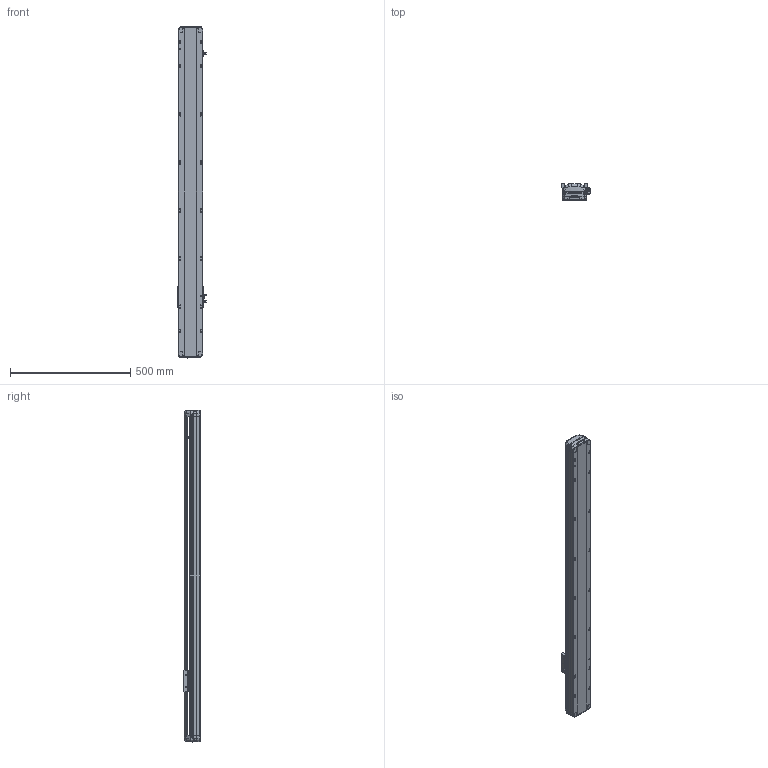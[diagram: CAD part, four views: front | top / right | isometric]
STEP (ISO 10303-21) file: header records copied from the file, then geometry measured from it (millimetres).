
FILE_DESCRIPTION (( 'STEP AP214' ), '1' );
FILE_NAME ('RTH10-XX-1000-B-M10-C4.STEP', '2025-10-25T05:18:09', ( 'Microsoft' ), ( 'Microsoft' ), 'SwSTEP 2.0', 'SolidWorks 2018', '' );
FILE_SCHEMA (( 'AUTOMOTIVE_DESIGN' ));
Length unit declared in the file: millimetre
Products named in the file (7): N_RTH12-GY-004-賑釱^RTH10-XX-XX-B-M10-C4; N_RTH12-B-007P-奻裔^RTH10-XX-XX-B-M10-C4; N_RTH12-B-011P-臏倰第菁釱^RTH10-XX-XX-B-M10-C4; RTH10-XX-1000-B-M10-C4; N_OMRON EE-SX672 传感器^RTH10-XX-XX-B-M10-C4; N_RTH12-GY-001P^RTH10-XX-XX-B-M10-C4; N_RTH13-L-012覜茼え俋离^RTH10-XX-XX-B-M10-C4
Assembly tree (9 placements, depth 2):
  RTH10-XX-1000-B-M10-C4
    N_RTH12-B-011P-臏倰第菁釱^RTH10-XX-XX-B-M10-C4
    N_RTH13-L-012覜茼え俋离^RTH10-XX-XX-B-M10-C4
    N_OMRON EE-SX672 传感器^RTH10-XX-XX-B-M10-C4  x3
    N_RTH12-B-007P-奻裔^RTH10-XX-XX-B-M10-C4
    N_RTH12-GY-004-賑釱^RTH10-XX-XX-B-M10-C4
    N_RTH12-GY-001P^RTH10-XX-XX-B-M10-C4  x2
Bounding box: 116.5 x 70 x 1379.29 mm (x, y, z)
Volume: 5152192.8 mm3; surface area: 814514.3 mm2
Topology: 7 solids, 11 shells, 2240 faces, 6298 edges, 4124 vertices
Faces by surface type: plane 1061, bspline 712, cylinder 447, cone 16, torus 4
Entity records: 51170 total; most frequent: CARTESIAN_POINT 22018, ORIENTED_EDGE 6724, DIRECTION 4786, EDGE_CURVE 3368, VERTEX_POINT 2211, LINE 1720, VECTOR 1720, AXIS2_PLACEMENT_3D 1533
